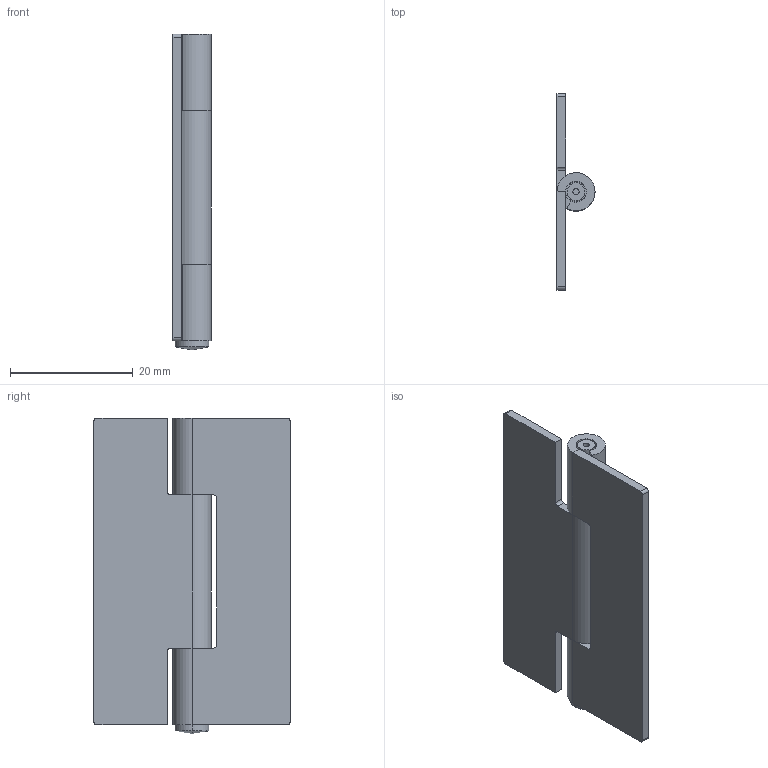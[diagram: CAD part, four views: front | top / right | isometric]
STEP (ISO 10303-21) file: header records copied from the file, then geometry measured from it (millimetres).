
FILE_DESCRIPTION (( 'STEP AP214' ), '1' );
FILE_NAME ('HL035-軞蚾.STEP', '2023-08-24T00:13:22', ( '' ), ( '' ), 'SwSTEP 2.0', 'SolidWorks 2019', '' );
FILE_SCHEMA (( 'AUTOMOTIVE_DESIGN' ));
Length unit declared in the file: millimetre
Products named in the file (1): HL035-軞蚾
Bounding box: 6.2 x 32 x 51.48 mm (x, y, z)
Volume: 3192.1 mm3; surface area: 5065.4 mm2
Topology: 3 solids, 3 shells, 51 faces, 122 edges, 77 vertices
Faces by surface type: plane 25, cylinder 20, torus 4, cone 2
Entity records: 2083 total; most frequent: DIRECTION 272, CARTESIAN_POINT 249, ORIENTED_EDGE 240, EDGE_CURVE 120, AXIS2_PLACEMENT_3D 100, VERTEX_POINT 77, VECTOR 72, LINE 72
